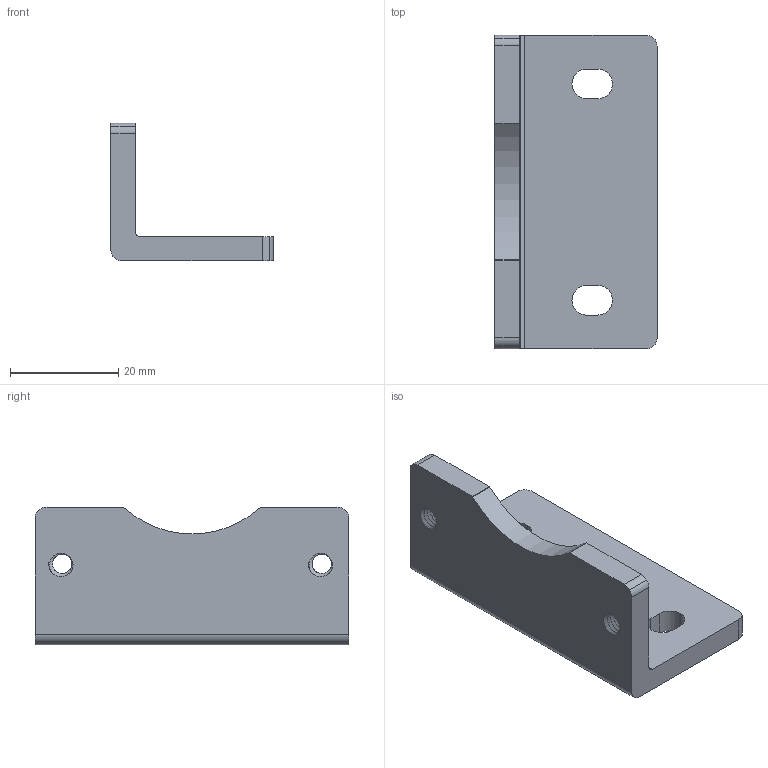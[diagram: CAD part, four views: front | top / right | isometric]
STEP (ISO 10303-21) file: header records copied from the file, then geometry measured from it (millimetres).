
FILE_DESCRIPTION(('STEP AP214'),'1');
FILE_NAME('D:\仕事\テーマ別\3DCAD\FT001 SCN5 フート\tmp0.STP',' ',(' '),(' '),'XStep 1.0',' ',' ');
FILE_SCHEMA(('automotive_design'));
Length unit declared in the file: millimetre
Bounding box: 30 x 58 x 25.5 mm (x, y, z)
Volume: 12421.9 mm3; surface area: 6873.7 mm2
Topology: 1 solids, 1 shells, 70 faces, 204 edges, 136 vertices
Faces by surface type: cylinder 49, plane 17, bspline 4
Entity records: 17454 total; most frequent: CARTESIAN_POINT 15071, ORIENTED_EDGE 408, DIRECTION 334, EDGE_CURVE 204, VERTEX_POINT 136, AXIS2_PLACEMENT_3D 121, LINE 92, VECTOR 92
